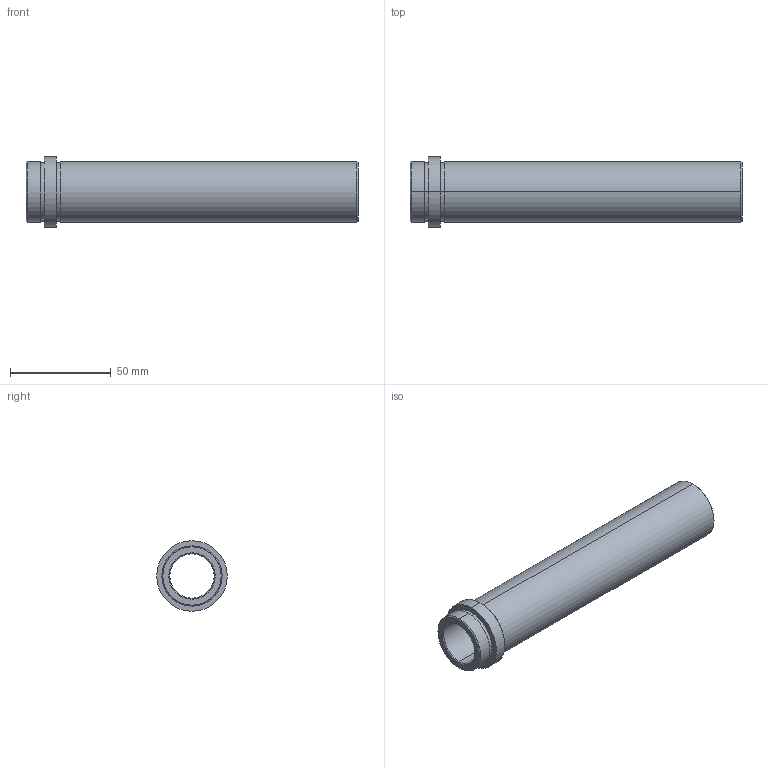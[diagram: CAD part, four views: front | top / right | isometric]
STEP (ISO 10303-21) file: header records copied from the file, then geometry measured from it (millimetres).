
FILE_DESCRIPTION( ( 'STEP AP203' ), '1' );
FILE_NAME( 'D:/Delta 3 D/D21/D21 - 22x156.step', '2002-12-31T22:42:39', ( ' ' ), ( ' ' ), 'XStep 1.0', ' ', ' ' );
FILE_SCHEMA( ( 'CONFIG_CONTROL_DESIGN' ) );
Length unit declared in the file: metre
Products named in the file (1): 1
Bounding box: 165 x 35 x 35 mm (x, y, z)
Volume: 55215.1 mm3; surface area: 28290.2 mm2
Topology: 1 solids, 1 shells, 26 faces, 52 edges, 32 vertices
Faces by surface type: revolution 20, bspline 6
Entity records: 773 total; most frequent: CARTESIAN_POINT 169, DIRECTION 106, ORIENTED_EDGE 104, EDGE_CURVE 52, AXIS2_PLACEMENT_3D 33, EDGE_LOOP 32, VERTEX_POINT 32, CIRCLE 32
